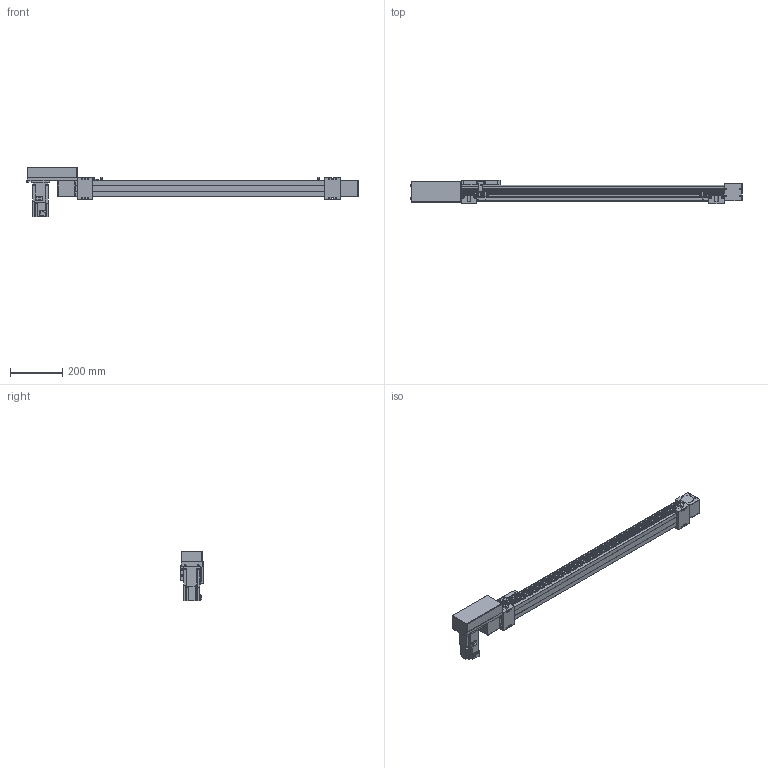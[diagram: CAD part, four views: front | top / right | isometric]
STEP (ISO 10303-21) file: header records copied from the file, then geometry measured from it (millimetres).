
FILE_DESCRIPTION(/* description */ ('STEP AP214'),/* implementation_level */ '2;1');
FILE_NAME(/* name */ 'SK60-P13-S850-R-T40-C1-N(0)',/* time_stamp */ '2023-04-06T04:27:02+02:00',/* author */ ('License CC BY-ND 4.0'),/* organization */ ('CADENAS'),/* preprocessor_version */ 'ST-DEVELOPER v19.3',/* originating_system */ 'PARTsolutions',/* authorisation */ ' ');
FILE_SCHEMA (('AUTOMOTIVE_DESIGN {1 0 10303 214 3 1 1}'));
Length unit declared in the file: millimetre
Products named in the file (10): SK60-P13-S850-R-T40-C1-N(0); PSC140-sensor; SK60-S450_seat; SK60-S450-BL-C1_slider; SK60_body3; SK60_body6; SK60-BL_body2; T40-p1; SK60-R_fb; SK60-S850-R-C1_body
Assembly tree (16 placements, depth 2):
  SK60-P13-S850-R-T40-C1-N(0)
    PSC140-sensor  x3
    SK60-S450_seat  x2
    SK60-S450-BL-C1_slider
    SK60_body3  x3
    SK60_body6  x2
    SK60-BL_body2  x2
    T40-p1
    SK60-R_fb
    SK60-S850-R-C1_body
Bounding box: 1270.5 x 90 x 189.7 mm (x, y, z)
Volume: 5105455.5 mm3; surface area: 646273.8 mm2
Topology: 16 solids, 16 shells, 810 faces, 2048 edges, 1349 vertices
Faces by surface type: plane 524, cylinder 262, cone 22, torus 2
Full cylindrical faces by diameter (mm): 2.8 x3, 3.3 x4, 4 x2, 4.5 x30, 4.6 x3, 4.917 x16, 5 x6, 5.478 x4, 5.5 x19, 6.5 x4, 7 x2, 8 x4, 8.5 x4, 9.988 x4, 10 x8, 14 x1, 47 x3, 50 x2
Entity records: 18655 total; most frequent: DIRECTION 3184, CARTESIAN_POINT 3150, ORIENTED_EDGE 2940, EDGE_CURVE 1470, AXIS2_PLACEMENT_3D 1068, LINE 1048, VECTOR 1048, VERTEX_POINT 1034
